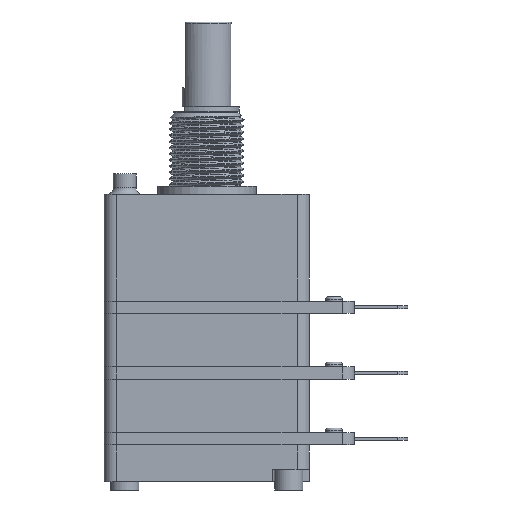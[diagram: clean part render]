
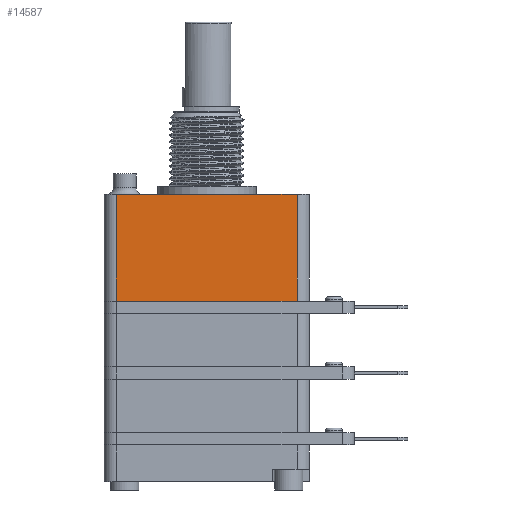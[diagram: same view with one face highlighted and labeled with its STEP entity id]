
A CAD part, left-side view. The second image highlights one B-rep face of the part: STEP entity #14587.
In plain terms, the highlighted planar face has unit normal (-1, 0, 0).
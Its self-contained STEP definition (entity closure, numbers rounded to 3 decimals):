
#14233 = PLANE('',#14234);
#14234 = AXIS2_PLACEMENT_3D('',#14235,#14236,#14237);
#14235 = CARTESIAN_POINT('',(-12.5,-12.5,-1.));
#14236 = DIRECTION('',(0.,0.,1.));
#14237 = DIRECTION('',(1.,0.,0.));
#14248 = EDGE_CURVE('',#14249,#14251,#14253,.T.);
#14249 = VERTEX_POINT('',#14250);
#14250 = CARTESIAN_POINT('',(-12.5,-11.,-1.));
#14251 = VERTEX_POINT('',#14252);
#14252 = CARTESIAN_POINT('',(-12.5,11.,-1.));
#14253 = SURFACE_CURVE('',#14254,(#14258,#14265),.PCURVE_S1.);
#14254 = LINE('',#14255,#14256);
#14255 = CARTESIAN_POINT('',(-12.5,-12.5,-1.));
#14256 = VECTOR('',#14257,1.);
#14257 = DIRECTION('',(0.,1.,0.));
#14258 = PCURVE('',#14233,#14259);
#14259 = DEFINITIONAL_REPRESENTATION('',(#14260),#14264);
#14260 = LINE('',#14261,#14262);
#14261 = CARTESIAN_POINT('',(0.,0.));
#14262 = VECTOR('',#14263,1.);
#14263 = DIRECTION('',(0.,1.));
#14264 = ( GEOMETRIC_REPRESENTATION_CONTEXT(2) 
PARAMETRIC_REPRESENTATION_CONTEXT() REPRESENTATION_CONTEXT('2D SPACE',''
  ) );
#14265 = PCURVE('',#14266,#14271);
#14266 = PLANE('',#14267);
#14267 = AXIS2_PLACEMENT_3D('',#14268,#14269,#14270);
#14268 = CARTESIAN_POINT('',(-12.5,-12.5,-14.));
#14269 = DIRECTION('',(1.,0.,0.));
#14270 = DIRECTION('',(0.,0.,1.));
#14271 = DEFINITIONAL_REPRESENTATION('',(#14272),#14276);
#14272 = LINE('',#14273,#14274);
#14273 = CARTESIAN_POINT('',(13.,0.));
#14274 = VECTOR('',#14275,1.);
#14275 = DIRECTION('',(0.,-1.));
#14276 = ( GEOMETRIC_REPRESENTATION_CONTEXT(2) 
PARAMETRIC_REPRESENTATION_CONTEXT() REPRESENTATION_CONTEXT('2D SPACE',''
  ) );
#14295 = CYLINDRICAL_SURFACE('',#14296,1.5);
#14296 = AXIS2_PLACEMENT_3D('',#14297,#14298,#14299);
#14297 = CARTESIAN_POINT('',(-11.,-11.,-14.));
#14298 = DIRECTION('',(0.,0.,1.));
#14299 = DIRECTION('',(-1.,0.,0.));
#14472 = CYLINDRICAL_SURFACE('',#14473,1.5);
#14473 = AXIS2_PLACEMENT_3D('',#14474,#14475,#14476);
#14474 = CARTESIAN_POINT('',(-11.,11.,-14.));
#14475 = DIRECTION('',(0.,0.,1.));
#14476 = DIRECTION('',(-1.,0.,0.));
#14587 = ADVANCED_FACE('',(#14588),#14266,.F.);
#14588 = FACE_BOUND('',#14589,.F.);
#14589 = EDGE_LOOP('',(#14590,#14591,#14614,#14642));
#14590 = ORIENTED_EDGE('',*,*,#14248,.F.);
#14591 = ORIENTED_EDGE('',*,*,#14592,.F.);
#14592 = EDGE_CURVE('',#14593,#14249,#14595,.T.);
#14593 = VERTEX_POINT('',#14594);
#14594 = CARTESIAN_POINT('',(-12.5,-11.,-14.));
#14595 = SURFACE_CURVE('',#14596,(#14600,#14607),.PCURVE_S1.);
#14596 = LINE('',#14597,#14598);
#14597 = CARTESIAN_POINT('',(-12.5,-11.,-14.));
#14598 = VECTOR('',#14599,1.);
#14599 = DIRECTION('',(0.,0.,1.));
#14600 = PCURVE('',#14266,#14601);
#14601 = DEFINITIONAL_REPRESENTATION('',(#14602),#14606);
#14602 = LINE('',#14603,#14604);
#14603 = CARTESIAN_POINT('',(0.,-1.5));
#14604 = VECTOR('',#14605,1.);
#14605 = DIRECTION('',(1.,0.));
#14606 = ( GEOMETRIC_REPRESENTATION_CONTEXT(2) 
PARAMETRIC_REPRESENTATION_CONTEXT() REPRESENTATION_CONTEXT('2D SPACE',''
  ) );
#14607 = PCURVE('',#14295,#14608);
#14608 = DEFINITIONAL_REPRESENTATION('',(#14609),#14613);
#14609 = LINE('',#14610,#14611);
#14610 = CARTESIAN_POINT('',(0.,0.));
#14611 = VECTOR('',#14612,1.);
#14612 = DIRECTION('',(0.,1.));
#14613 = ( GEOMETRIC_REPRESENTATION_CONTEXT(2) 
PARAMETRIC_REPRESENTATION_CONTEXT() REPRESENTATION_CONTEXT('2D SPACE',''
  ) );
#14614 = ORIENTED_EDGE('',*,*,#14615,.T.);
#14615 = EDGE_CURVE('',#14593,#14616,#14618,.T.);
#14616 = VERTEX_POINT('',#14617);
#14617 = CARTESIAN_POINT('',(-12.5,11.,-14.));
#14618 = SURFACE_CURVE('',#14619,(#14623,#14630),.PCURVE_S1.);
#14619 = LINE('',#14620,#14621);
#14620 = CARTESIAN_POINT('',(-12.5,-12.5,-14.));
#14621 = VECTOR('',#14622,1.);
#14622 = DIRECTION('',(0.,1.,0.));
#14623 = PCURVE('',#14266,#14624);
#14624 = DEFINITIONAL_REPRESENTATION('',(#14625),#14629);
#14625 = LINE('',#14626,#14627);
#14626 = CARTESIAN_POINT('',(0.,0.));
#14627 = VECTOR('',#14628,1.);
#14628 = DIRECTION('',(0.,-1.));
#14629 = ( GEOMETRIC_REPRESENTATION_CONTEXT(2) 
PARAMETRIC_REPRESENTATION_CONTEXT() REPRESENTATION_CONTEXT('2D SPACE',''
  ) );
#14630 = PCURVE('',#14631,#14636);
#14631 = PLANE('',#14632);
#14632 = AXIS2_PLACEMENT_3D('',#14633,#14634,#14635);
#14633 = CARTESIAN_POINT('',(-12.5,-18.,-15.5));
#14634 = DIRECTION('',(1.,0.,0.));
#14635 = DIRECTION('',(0.,0.,1.));
#14636 = DEFINITIONAL_REPRESENTATION('',(#14637),#14641);
#14637 = LINE('',#14638,#14639);
#14638 = CARTESIAN_POINT('',(1.5,-5.5));
#14639 = VECTOR('',#14640,1.);
#14640 = DIRECTION('',(0.,-1.));
#14641 = ( GEOMETRIC_REPRESENTATION_CONTEXT(2) 
PARAMETRIC_REPRESENTATION_CONTEXT() REPRESENTATION_CONTEXT('2D SPACE',''
  ) );
#14642 = ORIENTED_EDGE('',*,*,#14643,.T.);
#14643 = EDGE_CURVE('',#14616,#14251,#14644,.T.);
#14644 = SURFACE_CURVE('',#14645,(#14649,#14656),.PCURVE_S1.);
#14645 = LINE('',#14646,#14647);
#14646 = CARTESIAN_POINT('',(-12.5,11.,-14.));
#14647 = VECTOR('',#14648,1.);
#14648 = DIRECTION('',(0.,0.,1.));
#14649 = PCURVE('',#14266,#14650);
#14650 = DEFINITIONAL_REPRESENTATION('',(#14651),#14655);
#14651 = LINE('',#14652,#14653);
#14652 = CARTESIAN_POINT('',(0.,-23.5));
#14653 = VECTOR('',#14654,1.);
#14654 = DIRECTION('',(1.,0.));
#14655 = ( GEOMETRIC_REPRESENTATION_CONTEXT(2) 
PARAMETRIC_REPRESENTATION_CONTEXT() REPRESENTATION_CONTEXT('2D SPACE',''
  ) );
#14656 = PCURVE('',#14472,#14657);
#14657 = DEFINITIONAL_REPRESENTATION('',(#14658),#14662);
#14658 = LINE('',#14659,#14660);
#14659 = CARTESIAN_POINT('',(-0.,0.));
#14660 = VECTOR('',#14661,1.);
#14661 = DIRECTION('',(-0.,1.));
#14662 = ( GEOMETRIC_REPRESENTATION_CONTEXT(2) 
PARAMETRIC_REPRESENTATION_CONTEXT() REPRESENTATION_CONTEXT('2D SPACE',''
  ) );
